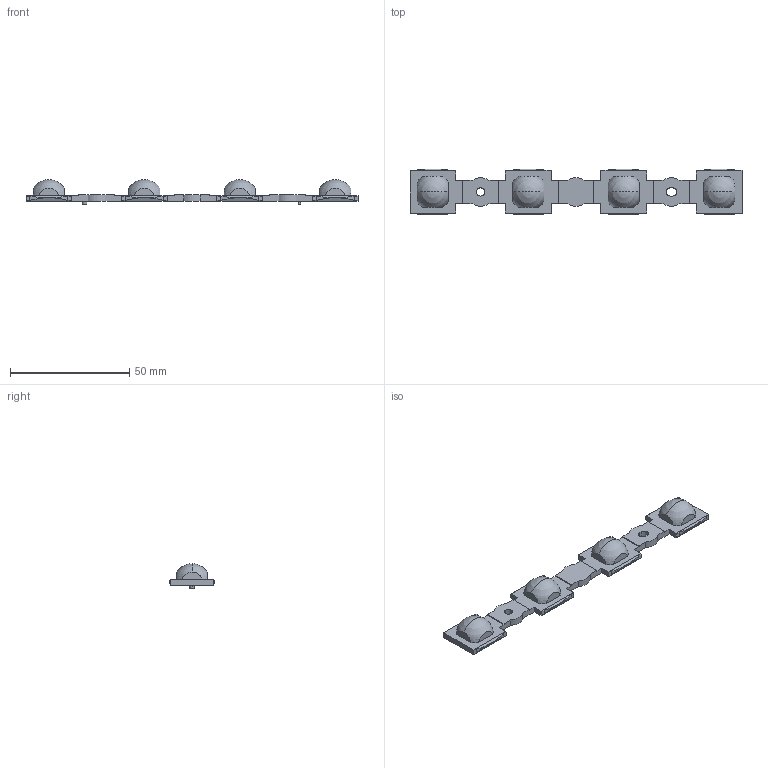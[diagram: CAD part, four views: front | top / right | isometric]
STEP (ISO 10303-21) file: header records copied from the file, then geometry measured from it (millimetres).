
FILE_DESCRIPTION(('Creo Elements/Direct Modeling STEP Export'),'2;1');
FILE_NAME('91469.stp','2026-08-13T10:54:16',(''),(''),'Creo Elements/Direct Modeling STEP processor for AP214 (Solid Model)','Creo Elements/Direct Modeling 20.8 17-May-2025 (C) Parametric Technology GmbH','');
FILE_SCHEMA(('AUTOMOTIVE_DESIGN { 1 0 10303 214 1 1 1 1 }'));
Length unit declared in the file: millimetre
Products named in the file (2): 91469
Assembly tree (1 placements, depth 2):
  91469
    91469
Bounding box: 139.1 x 19.1 x 10.3 mm (x, y, z)
Volume: 7257.8 mm3; surface area: 5903.4 mm2
Topology: 1 solids, 1 shells, 148 faces, 418 edges, 274 vertices
Faces by surface type: plane 98, cylinder 34, revolution 8, bspline 4, cone 4
Entity records: 9237 total; most frequent: CARTESIAN_POINT 4496, ORIENTED_EDGE 820, DIRECTION 598, EDGE_CURVE 410, VERTEX_POINT 274, VECTOR 258, LINE 258, AXIS2_PLACEMENT_3D 164
